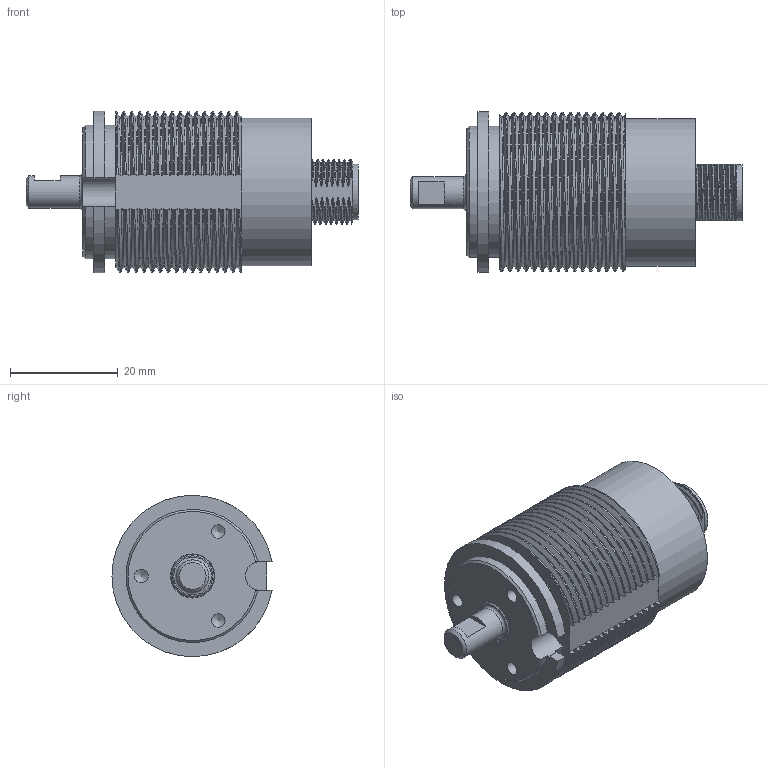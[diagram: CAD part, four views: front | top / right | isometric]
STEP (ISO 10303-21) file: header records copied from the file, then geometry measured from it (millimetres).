
FILE_DESCRIPTION(/* description */ (''),/* implementation_level */ '2;1');
FILE_NAME(/* name */ 'J130-CUST-ASSY-WRAP.step',/* time_stamp */ '2024-06-12T14:43:34-05:00',/* author */ (''),/* organization */ (''),/* preprocessor_version */ 'ST-DEVELOPER v20',/* originating_system */ 'Autodesk Translation Framework v13.14.0.145',/* authorisation */ '');
FILE_SCHEMA (('AUTOMOTIVE_DESIGN { 1 0 10303 214 3 1 1 }'));
Length unit declared in the file: inch
Products named in the file (1): J130-CUST-ASSY-WRAP
Bounding box: 61.65 x 29.73 x 29.97 mm (x, y, z)
Volume: 25694.5 mm3; surface area: 8836.5 mm2
Topology: 1 solids, 1 shells, 369 faces, 1035 edges, 687 vertices
Faces by surface type: bspline 175, plane 91, cylinder 79, cone 16, sphere 5, torus 3
Full cylindrical faces by diameter (mm): 1 x5, 2.529 x3, 5.984 x1, 7.996 x1, 8 x1, 8.204 x1, 8.3 x1, 10.4 x1, 12.446 x1, 26.162 x1, 27.432 x1
Entity records: 21939 total; most frequent: CARTESIAN_POINT 14089, ORIENTED_EDGE 2054, EDGE_CURVE 1027, DIRECTION 895, VERTEX_POINT 687, B_SPLINE_CURVE_WITH_KNOTS 631, EDGE_LOOP 396, FACE_OUTER_BOUND 369
